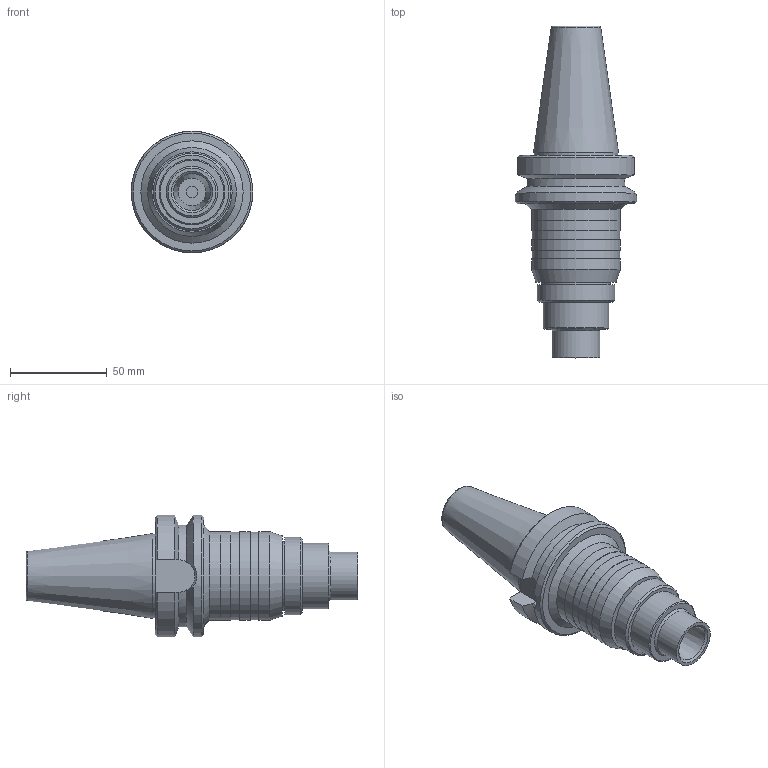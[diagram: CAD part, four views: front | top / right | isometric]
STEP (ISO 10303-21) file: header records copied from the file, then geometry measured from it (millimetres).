
FILE_DESCRIPTION(/* description */ (''),/* implementation_level */ '2;1');
FILE_NAME(/* name */ 'Z:\Проектный отдел\Влад\Фрезерные патроны\BT40-ETP20-100.stp',/* time_stamp */ '2023-03-30T11:31:08+03:00',/* author */ ('инженер'),/* organization */ (''),/* preprocessor_version */ 'ST-DEVELOPER v18',/* originating_system */ 'Autodesk Inventor 2020',/* authorisation */ '');
FILE_SCHEMA (('AUTOMOTIVE_DESIGN { 1 0 10303 214 3 1 1 }'));
Length unit declared in the file: millimetre
Products named in the file (1): BT40-SLN25-100L
Bounding box: 63 x 171.9 x 63 mm (x, y, z)
Volume: 215024.1 mm3; surface area: 41236.3 mm2
Topology: 2 solids, 2 shells, 68 faces, 177 edges, 129 vertices
Faces by surface type: plane 26, cylinder 24, cone 15, bspline 2, torus 1
Full cylindrical faces by diameter (mm): 6 x1, 14.1 x1, 14.4 x1, 17 x1, 24.8 x1, 25 x2, 34 x1, 35.5 x1, 40 x1, 43.3 x1, 45.4 x2, 46 x4, 63 x1
Entity records: 2362 total; most frequent: CARTESIAN_POINT 560, DIRECTION 389, ORIENTED_EDGE 354, EDGE_CURVE 177, AXIS2_PLACEMENT_3D 170, VERTEX_POINT 129, CIRCLE 103, EDGE_LOOP 86
